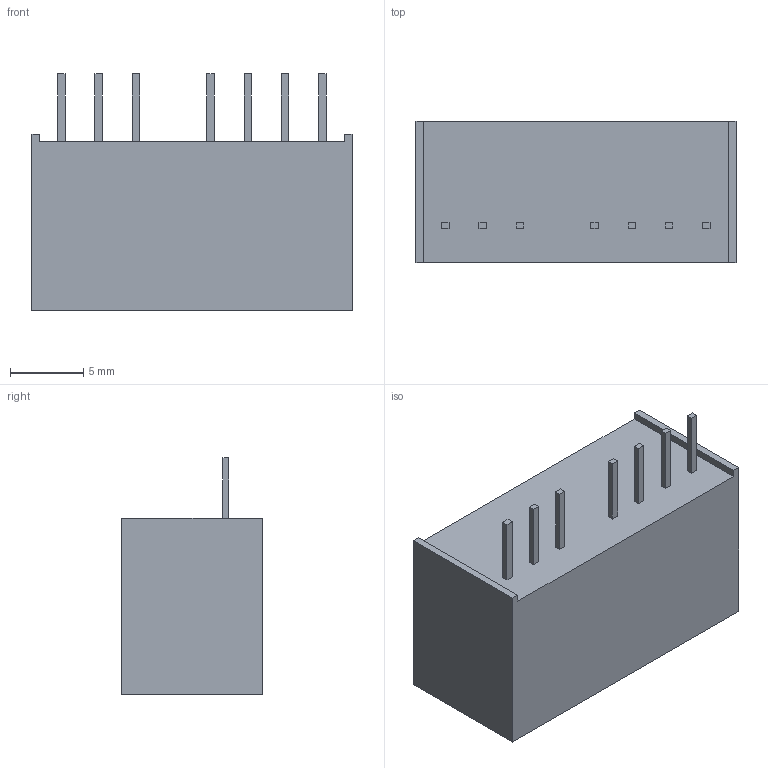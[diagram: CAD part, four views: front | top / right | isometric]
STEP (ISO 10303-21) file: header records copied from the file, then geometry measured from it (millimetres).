
FILE_DESCRIPTION(/* description */ (''),/* implementation_level */ '2;1');
FILE_NAME(/* name */ 'C:\Users\09606380\Desktop\轉檔暫存用\MCWI10+MCWI08.stp',/* time_stamp */ '2025-03-14T14:05:00+08:00',/* author */ ('09606380'),/* organization */ (''),/* preprocessor_version */ 'ST-DEVELOPER v16.1',/* originating_system */ 'Autodesk Inventor 2016',/* authorisation */ '');
FILE_SCHEMA (('AUTOMOTIVE_DESIGN { 1 0 10303 214 3 1 1 }'));
Length unit declared in the file: millimetre
Products named in the file (1): MCWI10 Case(R0-T1)極限值-\X2\6A2164EC7528
\X0\(20240722)
Bounding box: 21.8 x 9.6 x 16.1 mm (x, y, z)
Volume: 2418 mm3; surface area: 1218.9 mm2
Topology: 1 solids, 1 shells, 45 faces, 108 edges, 72 vertices
Faces by surface type: plane 45
Entity records: 1365 total; most frequent: CARTESIAN_POINT 226, ORIENTED_EDGE 216, DIRECTION 200, LINE 108, VECTOR 108, EDGE_CURVE 108, VERTEX_POINT 72, EDGE_LOOP 52
